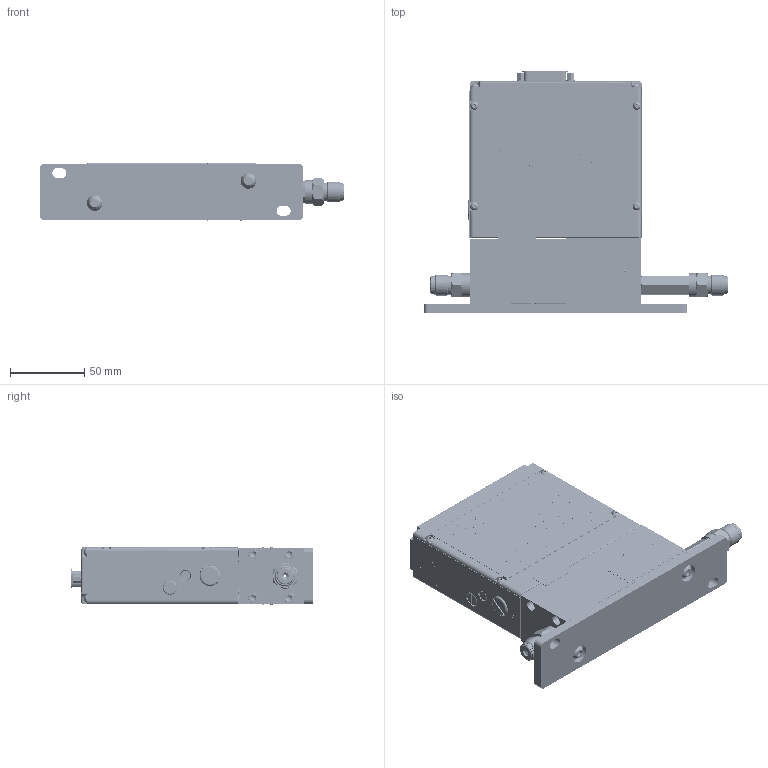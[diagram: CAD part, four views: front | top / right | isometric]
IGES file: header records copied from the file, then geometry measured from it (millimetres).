
Start section: SolidWorks IGES file using analytic representation for surfaces
Global section: file name: G:\Engineering\CAD MODELS FOR SALES\CAD MODEL STORAGE\QMC\Customer FIles\IGES\QMC-C-B-A-1M-1-Z.IGS; native system: SolidWorks 2020; preprocessor: SolidWorks 2020; author: SThen; date: 240308.101715; units: inch
Bounding box: 205.43 x 163.6 x 39.7 mm (x, y, z)
Surface area: 174999.8 mm2 (no closed solid volume)
Topology: 0 solids, 0 shells, 3965 faces, 57860 edges, 57829 vertices
Faces by surface type: bspline 2738, revolution 1227
